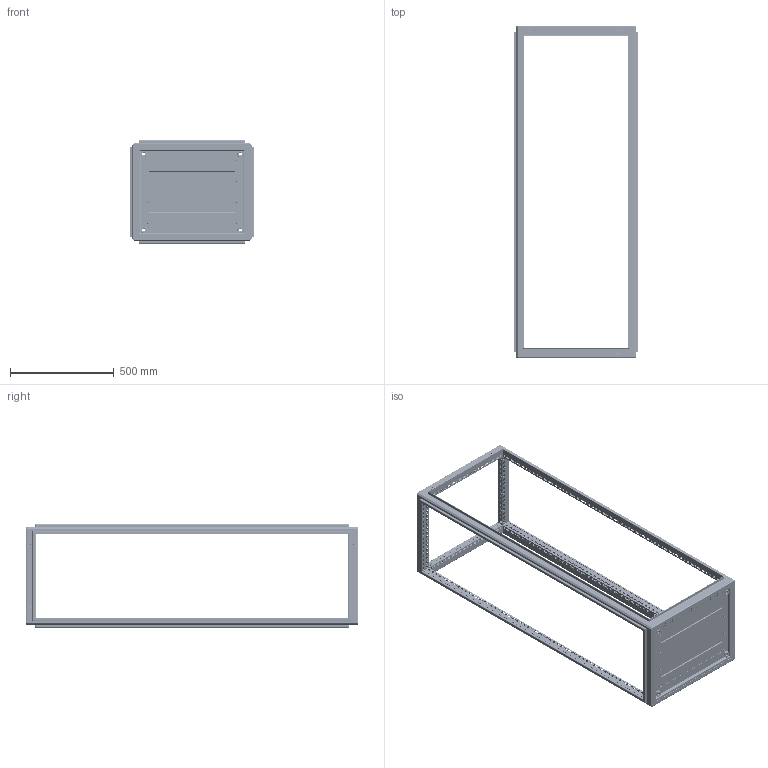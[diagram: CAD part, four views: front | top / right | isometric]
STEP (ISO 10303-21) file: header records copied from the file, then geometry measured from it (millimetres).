
FILE_DESCRIPTION(('STEP AP242'), '1');
FILE_NAME('ÊÑÊ.PRO.S.160.60.50 Êàðêàñ_ñåêöèîíèðîâàíèå', '', ('UNSPECIFIED'), ('UNSPECIFIED'), 'C3D Converter', 'C3D Toolkit', '');
FILE_SCHEMA(('AP242_MANAGED_MODEL_BASED_3D_ENGINEERING_MIM_LF { 1 0 10303 442 1 1 4 }'));
Length unit declared in the file: millimetre
Products named in the file (11): КСК.PRO.S.160.60.50; КСК.PRO.60.50; КСК.PRO.160; КСК.PRO.S.160; 2007; 2007.60.75; 2008.60.200
Assembly tree (17 placements, depth 2):
  КСК.PRO.S.160.60.50
    КСК.PRO.60.50
    КСК.PRO.160
    КСК.PRO.60.50
    КСК.PRO.160
    КСК.PRO.S.160
    КСК.PRO.S.160
    2007
    2007.60.75
    2008.60.200
    (unnamed)  x8
Bounding box: 597 x 1597 x 497 mm (x, y, z)
Volume: 2780354 mm3; surface area: 3607181.9 mm2
Topology: 17 solids, 17 shells, 7121 faces, 20091 edges, 13165 vertices
Faces by surface type: plane 5007, cylinder 1728, cone 282, bspline 48, sphere 32, torus 24
Full cylindrical faces by diameter (mm): 3.242 x56, 4.134 x126, 4.5 x1048, 4.8 x8, 6 x56, 7 x126, 10.106 x4, 13.835 x4, 14 x4, 21.545 x4
Entity records: 243695 total; most frequent: CARTESIAN_POINT 40316, ORIENTED_EDGE 35746, DIRECTION 34936, EDGE_CURVE 17873, LINE 14318, VECTOR 14318, EDGE_LOOP 13040, VERTEX_POINT 12759
